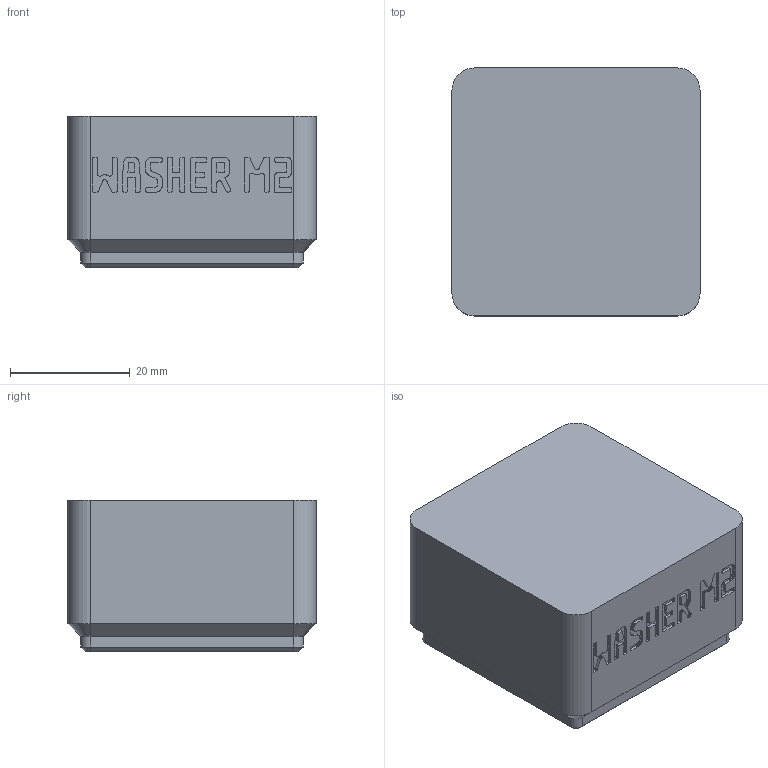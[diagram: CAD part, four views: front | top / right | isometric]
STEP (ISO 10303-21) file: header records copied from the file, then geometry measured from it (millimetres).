
FILE_DESCRIPTION(('Open CASCADE Model'),'2;1');
FILE_NAME('Open CASCADE Shape Model','2026-11-03T16:21:39',('Author'),( 'Open CASCADE'),'Open CASCADE STEP processor 8.0','build123d', 'Unknown');
FILE_SCHEMA(('AUTOMOTIVE_DESIGN { 1 0 10303 214 1 1 1 1 }'));
Products named in the file (1): COMPOUND
Bounding box: 41.5 x 41.5 x 25.4 mm (x, y, z)
Volume: 14640.9 mm3; surface area: 13624.4 mm2
Topology: 1 solids, 2 shells, 1787 faces, 5246 edges, 3484 vertices
Faces by surface type: plane 1751, cylinder 16, cone 12, bspline 8
Entity records: 126234 total; most frequent: CARTESIAN_POINT 21274, DIRECTION 19198, LINE 15534, VECTOR 15534, ORIENTED_EDGE 10492, PCURVE 10492, DEFINITIONAL_REPRESENTATION 10492, EDGE_CURVE 5246
